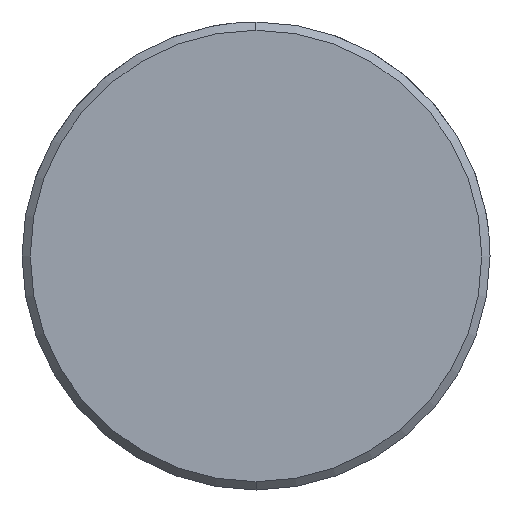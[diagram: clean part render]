
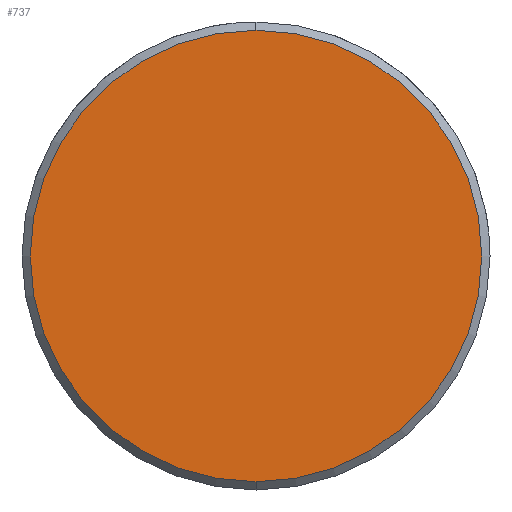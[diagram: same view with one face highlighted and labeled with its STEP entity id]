
A CAD part, left-side view. The second image highlights one B-rep face of the part: STEP entity #737.
In plain terms, the highlighted planar face has unit normal (-1, 0, 0).
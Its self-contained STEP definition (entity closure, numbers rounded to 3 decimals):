
#669=CARTESIAN_POINT('Vertex',(0.,0.,-8.2)) ;
#672=CARTESIAN_POINT('Axis2P3D Location',(0.,0.,0.)) ;
#676=CARTESIAN_POINT('Vertex',(0.,8.2,0.)) ;
#679=CARTESIAN_POINT('Axis2P3D Location',(0.,0.,0.)) ;
#683=CARTESIAN_POINT('Vertex',(0.,0.,8.2)) ;
#705=CARTESIAN_POINT('Axis2P3D Location',(0.,0.,0.)) ;
#709=CARTESIAN_POINT('Vertex',(0.,-8.2,0.)) ;
#712=CARTESIAN_POINT('Axis2P3D Location',(0.,0.,0.)) ;
#726=CARTESIAN_POINT('Axis2P3D Location',(0.,0.,0.)) ;
#673=DIRECTION('Axis2P3D Direction',(1.,0.,-0.)) ;
#680=DIRECTION('Axis2P3D Direction',(1.,0.,-0.)) ;
#706=DIRECTION('Axis2P3D Direction',(1.,0.,-0.)) ;
#713=DIRECTION('Axis2P3D Direction',(1.,0.,-0.)) ;
#727=DIRECTION('Axis2P3D Direction',(1.,0.,-0.)) ;
#728=DIRECTION('Axis2P3D XDirection',(-0.,0.,-1.)) ;
#674=AXIS2_PLACEMENT_3D('Circle Axis2P3D',#672,#673,$) ;
#681=AXIS2_PLACEMENT_3D('Circle Axis2P3D',#679,#680,$) ;
#707=AXIS2_PLACEMENT_3D('Circle Axis2P3D',#705,#706,$) ;
#714=AXIS2_PLACEMENT_3D('Circle Axis2P3D',#712,#713,$) ;
#729=AXIS2_PLACEMENT_3D('Plane Axis2P3D',#726,#727,#728) ;
#732=ORIENTED_EDGE('',*,*,#678,.F.) ;
#733=ORIENTED_EDGE('',*,*,#716,.F.) ;
#734=ORIENTED_EDGE('',*,*,#711,.F.) ;
#735=ORIENTED_EDGE('',*,*,#685,.F.) ;
#737=ADVANCED_FACE('549-14X160',(#736),#730,.F.) ;
#675=CIRCLE('generated circle',#674,8.2) ;
#682=CIRCLE('generated circle',#681,8.2) ;
#708=CIRCLE('generated circle',#707,8.2) ;
#715=CIRCLE('generated circle',#714,8.2) ;
#678=EDGE_CURVE('',#670,#677,#675,.T.) ;
#685=EDGE_CURVE('',#677,#684,#682,.T.) ;
#711=EDGE_CURVE('',#684,#710,#708,.T.) ;
#716=EDGE_CURVE('',#710,#670,#715,.T.) ;
#731=EDGE_LOOP('',(#732,#733,#734,#735)) ;
#736=FACE_OUTER_BOUND('',#731,.T.) ;
#730=PLANE('Plane',#729) ;
#670=VERTEX_POINT('',#669) ;
#677=VERTEX_POINT('',#676) ;
#684=VERTEX_POINT('',#683) ;
#710=VERTEX_POINT('',#709) ;
